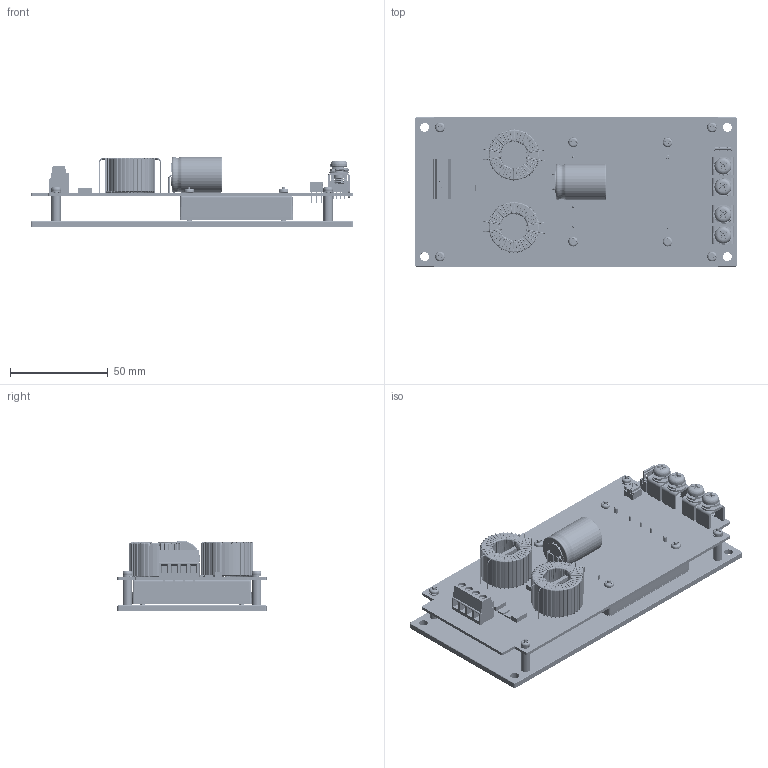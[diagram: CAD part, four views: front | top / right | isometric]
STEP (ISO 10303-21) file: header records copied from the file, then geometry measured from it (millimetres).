
FILE_DESCRIPTION (( 'STEP AP203' ), '1' );
FILE_NAME ('CHB300W-110S CMFC 3.3,5V成品圖2025.01.02.STEP', '2025-01-03T08:43:12', ( '' ), ( '' ), 'SwSTEP 2.0', 'SolidWorks 2020', '' );
FILE_SCHEMA (( 'CONFIG_CONTROL_DESIGN' ));
Products named in the file (1): CHB300W-110S CMFC 3.3,5V成品圖2025.01.02
Bounding box: 165 x 76.2 x 36 mm (x, y, z)
Volume: 127001.1 mm3; surface area: 91001.9 mm2
Topology: 25 solids, 47 shells, 3113 faces, 7947 edges, 5054 vertices
Faces by surface type: plane 1473, cylinder 793, torus 595, bspline 151, cone 93, sphere 8
Full cylindrical faces by diameter (mm): 0.45 x24, 0.8 x4, 1 x13, 1.2 x5, 1.5 x2, 2 x5, 2.2 x8, 3.2 x7, 3.239 x3, 3.25 x1, 3.264 x1, 3.8 x4, 4 x9, 4.2 x4, 4.3 x6, 4.5 x4, 4.6 x4, 4.7 x8, 5 x14, 5.3 x4, 5.5 x4, 10 x4, 12 x1, 12.8 x1, 13 x1, 14 x2, 18.3 x2
Entity records: 149700 total; most frequent: CARTESIAN_POINT 78923, ORIENTED_EDGE 15104, DIRECTION 13644, EDGE_CURVE 7552, AXIS2_PLACEMENT_3D 5050, VERTEX_POINT 4929, EDGE_LOOP 3669, VECTOR 3544
